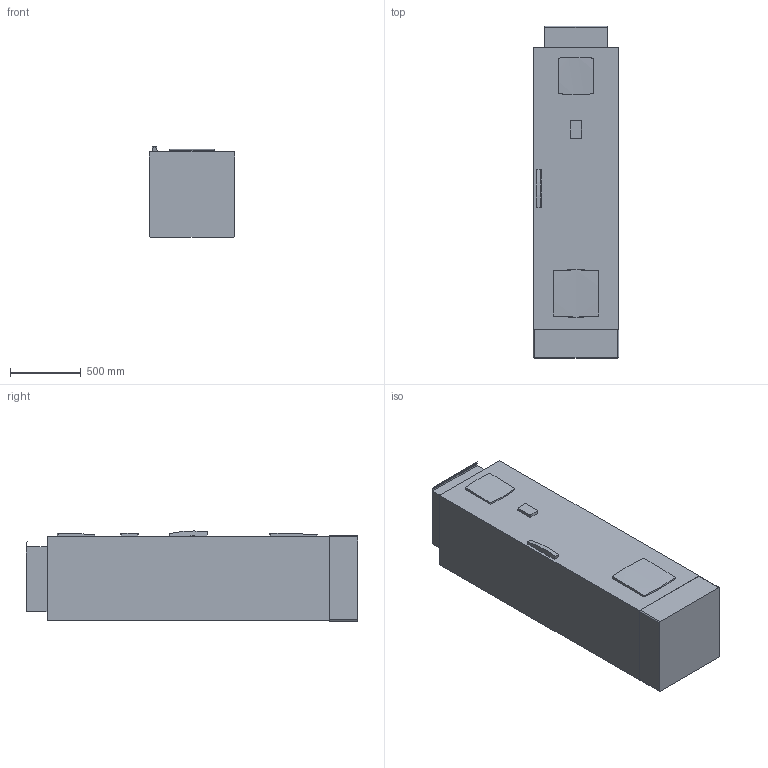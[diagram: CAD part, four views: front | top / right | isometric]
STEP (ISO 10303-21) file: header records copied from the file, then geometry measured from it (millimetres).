
FILE_DESCRIPTION(('STEP AP242'),'1');
FILE_NAME('atv950c20n4f.stp','2021-09-28T18:49:16',('TraceParts'),('TraceParts S.A.'),'Spatial InterOp 3D',' ',' ');
FILE_SCHEMA(('AP242_MANAGED_MODEL_BASED_3D_ENGINEERING_MIM_LF {1 0 10303 442 1 1 4}'));
Length unit declared in the file: millimetre
Products named in the file (1): atv950c20n4f_1
Bounding box: 605 x 2352.5 x 639.27 mm (x, y, z)
Volume: 833502379.8 mm3; surface area: 7135434.9 mm2
Topology: 2 solids, 2 shells, 54 faces, 138 edges, 92 vertices
Faces by surface type: plane 36, cylinder 11, bspline 4, revolution 3
Entity records: 1917 total; most frequent: CARTESIAN_POINT 607, ORIENTED_EDGE 276, DIRECTION 243, EDGE_CURVE 138, VERTEX_POINT 92, LINE 92, VECTOR 92, AXIS2_PLACEMENT_3D 74
